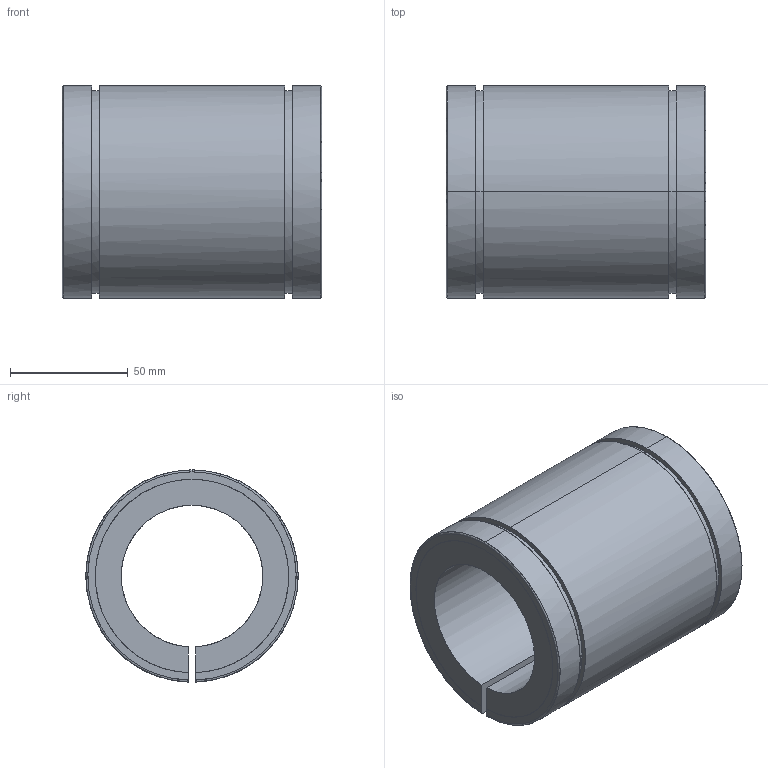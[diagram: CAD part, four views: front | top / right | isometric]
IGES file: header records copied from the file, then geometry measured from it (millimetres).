
Global section: file name: No Iges File Name specified; native system: AutoDesk Inventor R10; preprocessor: AutoDesk Inventor Iges Exporter R10; author: No Author specified; organization: No Organization specified; date: 20101208.100954; units: millimetre
Bounding box: 110 x 89.99 x 89.97 mm (x, y, z)
Surface area: 63377.4 mm2 (no closed solid volume)
Topology: 0 solids, 0 shells, 30 faces, 268 edges, 268 vertices
Faces by surface type: bspline 30
